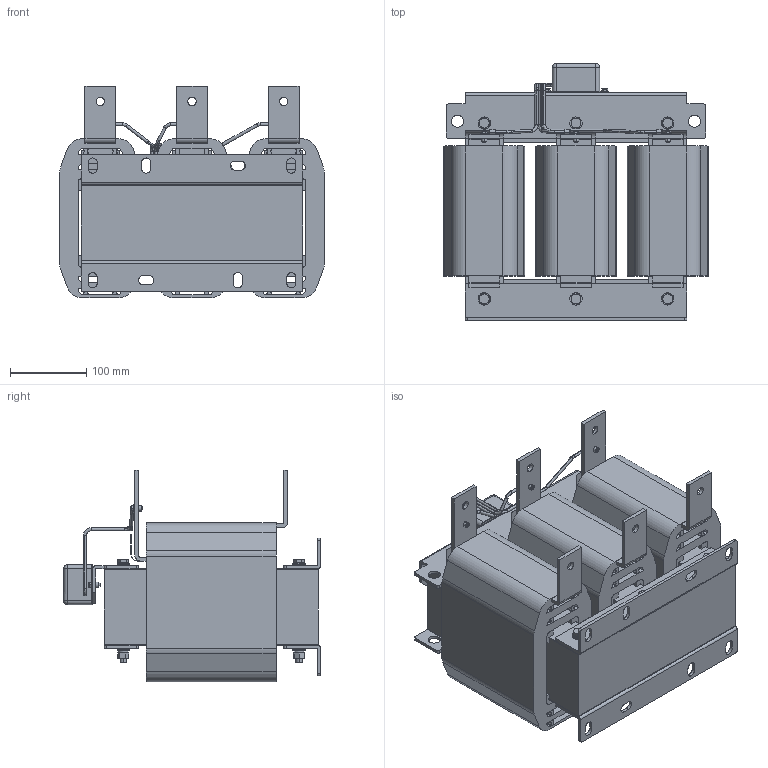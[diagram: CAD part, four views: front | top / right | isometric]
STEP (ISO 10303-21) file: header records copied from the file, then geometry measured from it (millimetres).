
FILE_DESCRIPTION (( 'STEP AP203' ), '1' );
FILE_NAME ('婰錪襝 dU_dT _IDUDT-355_430-6.STEP', '2026-05-07T06:38:33', ( '' ), ( '' ), 'SwSTEP 2.0', 'SolidWorks 2021', '' );
FILE_SCHEMA (( 'CONFIG_CONTROL_DESIGN' ));
Length unit declared in the file: millimetre
Products named in the file (62): plain washers--product grade c gb_GB_FASTENER_WASHER_SMWC 8; 三相铁芯290-50×98-280; hexagon nuts grade c gb_GB_FASTENER_NUT_SNC1 M8-N; DVT-线圈-315kW_27; M4す菜; DVT-线圈-315kW_1; 电容引线-290-50_1; DVT-线圈-315kW_6; DVT-线圈-315kW_5; DVT-线圈-315kW_10; 狟標璃-SKS-1007.405-LJ-A0; W26.5¡ÁH18.5¡ÁT10; DVT-线圈-315kW_8; 电容引线-290-50; DVT-线圈-315kW_7; DVT-线圈-315kW_14; DVT-线圈-315kW_37; DVT-囀堤盄齬40℅5; DVT-线圈-315kW_38; DVT-线圈-315kW_2; DVT-线圈-315kW_32; DVT-线圈-315kW_24; DVT-线圈-315kW_12; M4℅12坋趼鞠褒芛蹟邡; 鞠褒蹟邡M8℅130; DVT-线圈-315kW_20; DVT-线圈-315kW_29; DVT-线圈-315kW_15; DVT-线圈-315kW_17; DVT-线圈-315kW_3; ﾇｰﾉﾏｼﾐｼ340｡ﾁ60｡ﾁ50; DVT-线圈-315kW_30; 婰錪襝 dU_dT _IDUDT-355_430-6; 嶺啣沭50-280; 奻標璃-SKS-1007.404-LJ-A1; DVT-线圈-315kW; DVT-线圈-315kW_23; 电容盒-SKS-0901.601-LJ-A2; DVT-线圈-315kW_25; DVT-线圈-315kW_31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
Assembly tree (126 placements, depth 3):
  婰錪襝 dU_dT _IDUDT-355_430-6
    三相铁芯290-50×98-280
    ﾇｰﾉﾏｼﾐｼ340｡ﾁ60｡ﾁ50
    奻標璃-SKS-1007.404-LJ-A1
    狟標璃-SKS-1007.405-LJ-A0  x2
    嶺啣沭50-280  x6
    plain washers--product grade c gb_GB_FASTENER_WASHER_SMWC 8  x24
    spring lock washers--normal type gb_GB_FASTENER_WASHER_SW 8  x6
    hexagon nuts grade c gb_GB_FASTENER_NUT_SNC1 M8-N  x6
    鞠褒蹟邡M8℅130  x6
    电容盒-SKS-0901.601-LJ-A2
    M4す菜  x5
    M4℅12坋趼鞠褒芛蹟邡  x5
    DVT-线圈-315kW
      DVT-线圈-315kW_9
      DVT-线圈-315kW_31
      DVT-线圈-315kW_38
      DVT-线圈-315kW
      DVT-线圈-315kW_35
      DVT-线圈-315kW_14
      DVT-线圈-315kW_4
      DVT-线圈-315kW_18
      DVT-线圈-315kW_34
      DVT-线圈-315kW_12
      DVT-线圈-315kW_33
      DVT-线圈-315kW_7
      DVT-线圈-315kW_29
      DVT-线圈-315kW_25
      DVT-线圈-315kW_27
      DVT-线圈-315kW_22
      DVT-线圈-315kW_20
      DVT-线圈-315kW_1
      DVT-线圈-315kW_36
      DVT-线圈-315kW_5
      DVT-线圈-315kW_24
      DVT-线圈-315kW_19
      DVT-线圈-315kW_26
      DVT-线圈-315kW_17
      DVT-线圈-315kW_2
      DVT-线圈-315kW_11
      DVT-线圈-315kW_3
      DVT-线圈-315kW_13
      DVT-线圈-315kW_28
      DVT-线圈-315kW_15
      DVT-线圈-315kW_16
      DVT-线圈-315kW_37
      DVT-线圈-315kW_21
      DVT-线圈-315kW_32
      DVT-线圈-315kW_23
      DVT-线圈-315kW_10
      DVT-线圈-315kW_6
      DVT-线圈-315kW_8
      DVT-线圈-315kW_30
    DVT-外出线排40×5-75  x3
    DVT-囀堤盄齬40℅5  x3
    RNB1.25-4  x3
    电容引线-290-50
      电容引线-290-50
      电容引线-290-50_1
      电容引线-290-50_2
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Bounding box: 346 x 336 x 277 mm (x, y, z)
Volume: 12890585.3 mm3; surface area: 1882580.7 mm2
Topology: 124 solids, 124 shells, 3556 faces, 9254 edges, 6084 vertices
Faces by surface type: plane 1941, bspline 770, cylinder 710, cone 130, sphere 5
Entity records: 53864 total; most frequent: CARTESIAN_POINT 13676, ORIENTED_EDGE 6644, DIRECTION 6480, EDGE_CURVE 3322, VERTEX_POINT 2191, AXIS2_PLACEMENT_3D 2167, LINE 2146, VECTOR 2146
